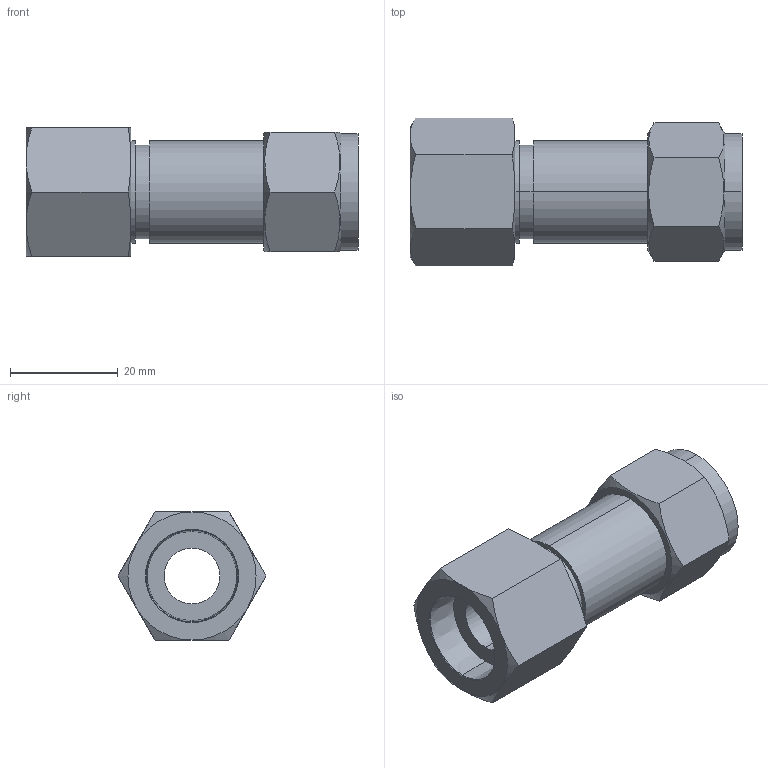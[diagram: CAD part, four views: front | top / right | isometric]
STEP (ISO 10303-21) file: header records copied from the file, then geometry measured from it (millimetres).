
FILE_DESCRIPTION (( 'STEP AP203' ), '1' );
FILE_NAME ('DSS08-06 SS.STEP', '2009-09-08T09:15:41', ( ' ' ), ( '' ), 'SwSTEP 2.0', 'SolidWorks 2008', '' );
FILE_SCHEMA (( 'CONFIG_CONTROL_DESIGN' ));
Length unit declared in the file: millimetre
Products named in the file (1): DSS08-06 SS
Bounding box: 61.7 x 27.49 x 23.81 mm (x, y, z)
Volume: 16686.6 mm3; surface area: 7785.7 mm2
Topology: 1 solids, 1 shells, 52 faces, 116 edges, 72 vertices
Faces by surface type: cone 20, plane 20, cylinder 12
Entity records: 1709 total; most frequent: CARTESIAN_POINT 513, ORIENTED_EDGE 232, DIRECTION 226, EDGE_CURVE 116, AXIS2_PLACEMENT_3D 97, VERTEX_POINT 72, EDGE_LOOP 60, FACE_OUTER_BOUND 52
